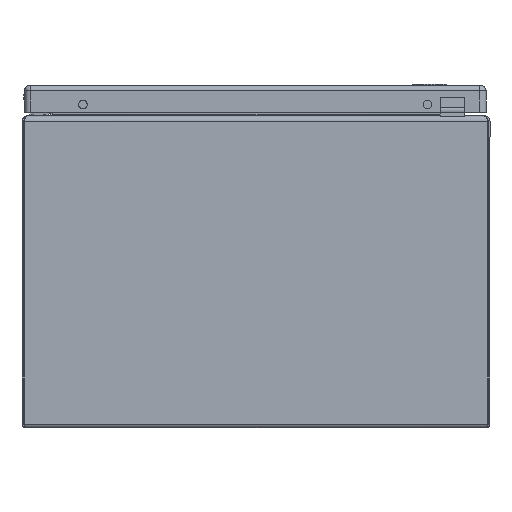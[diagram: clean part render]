
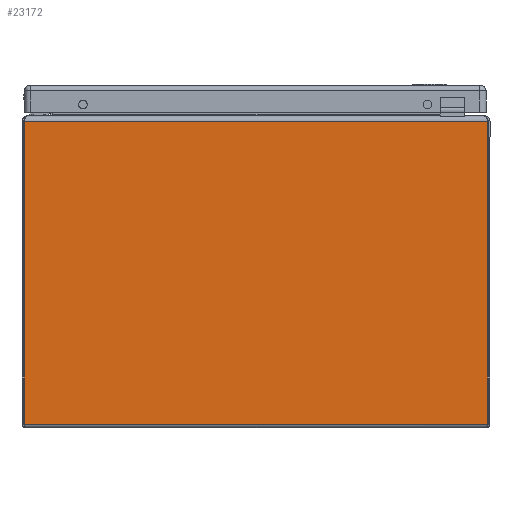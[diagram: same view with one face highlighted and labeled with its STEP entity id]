
A CAD part, front view. The second image highlights one B-rep face of the part: STEP entity #23172.
In plain terms, the highlighted planar face has unit normal (0, -1, 0).
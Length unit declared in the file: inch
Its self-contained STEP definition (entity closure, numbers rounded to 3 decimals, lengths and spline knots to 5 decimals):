
#1339 = VERTEX_POINT ( 'NONE', #8123 ) ;
#2152 = VERTEX_POINT ( 'NONE', #40927 ) ;
#8123 = CARTESIAN_POINT ( 'NONE',  ( -5.94693, -8., 0.097 ) ) ;
#14463 = ORIENTED_EDGE ( 'NONE', *, *, #44192, .T. ) ;
#14465 = ORIENTED_EDGE ( 'NONE', *, *, #44135, .T. ) ;
#14468 = ORIENTED_EDGE ( 'NONE', *, *, #44188, .F. ) ;
#14470 = ORIENTED_EDGE ( 'NONE', *, *, #44178, .T. ) ;
#18558 = AXIS2_PLACEMENT_3D ( 'NONE', #46000, #46039, #46055 ) ;
#23172 = ADVANCED_FACE ( 'NONE', ( #43451 ), #46066, .T. ) ;
#26442 = CARTESIAN_POINT ( 'NONE',  ( 5.94693, -8., 7.859 ) ) ;
#27637 = VECTOR ( 'NONE', #39996, 39.37008 ) ;
#27641 = LINE ( 'NONE', #39974, #27637 ) ;
#27702 = LINE ( 'NONE', #30650, #27706 ) ;
#27706 = VECTOR ( 'NONE', #30651, 39.37008 ) ;
#27724 = LINE ( 'NONE', #30671, #27725 ) ;
#27725 = VECTOR ( 'NONE', #30672, 39.37008 ) ;
#27732 = LINE ( 'NONE', #30679, #27733 ) ;
#27733 = VECTOR ( 'NONE', #30680, 39.37008 ) ;
#30650 = CARTESIAN_POINT ( 'NONE',  ( 5.94693, -8., 7.859 ) ) ;
#30651 = DIRECTION ( 'NONE',  ( 0., 0., 1. ) ) ;
#30671 = CARTESIAN_POINT ( 'NONE',  ( -86., -8., 7.859 ) ) ;
#30672 = DIRECTION ( 'NONE',  ( 1., 0., 0. ) ) ;
#30679 = CARTESIAN_POINT ( 'NONE',  ( -86., -8., 0.097 ) ) ;
#30680 = DIRECTION ( 'NONE',  ( 1., 0., 0. ) ) ;
#34140 = EDGE_LOOP ( 'NONE', ( #14470, #14468, #14465, #14463 ) ) ;
#37214 = VERTEX_POINT ( 'NONE', #26442 ) ;
#37320 = VERTEX_POINT ( 'NONE', #40775 ) ;
#39974 = CARTESIAN_POINT ( 'NONE',  ( -5.94693, -8., 7.859 ) ) ;
#39996 = DIRECTION ( 'NONE',  ( 0., 0., -1. ) ) ;
#40775 = CARTESIAN_POINT ( 'NONE',  ( 5.94693, -8., 0.097 ) ) ;
#40927 = CARTESIAN_POINT ( 'NONE',  ( -5.94693, -8., 7.859 ) ) ;
#43451 = FACE_OUTER_BOUND ( 'NONE', #34140, .T. ) ;
#44135 = EDGE_CURVE ( 'NONE', #2152, #1339, #27641, .T. ) ;
#44178 = EDGE_CURVE ( 'NONE', #37320, #37214, #27702, .T. ) ;
#44188 = EDGE_CURVE ( 'NONE', #2152, #37214, #27724, .T. ) ;
#44192 = EDGE_CURVE ( 'NONE', #1339, #37320, #27732, .T. ) ;
#46000 = CARTESIAN_POINT ( 'NONE',  ( -86., -8., 7.859 ) ) ;
#46039 = DIRECTION ( 'NONE',  ( 0., -1., 0. ) ) ;
#46055 = DIRECTION ( 'NONE',  ( 0., 0., -1. ) ) ;
#46066 = PLANE ( 'NONE',  #18558 ) ;
